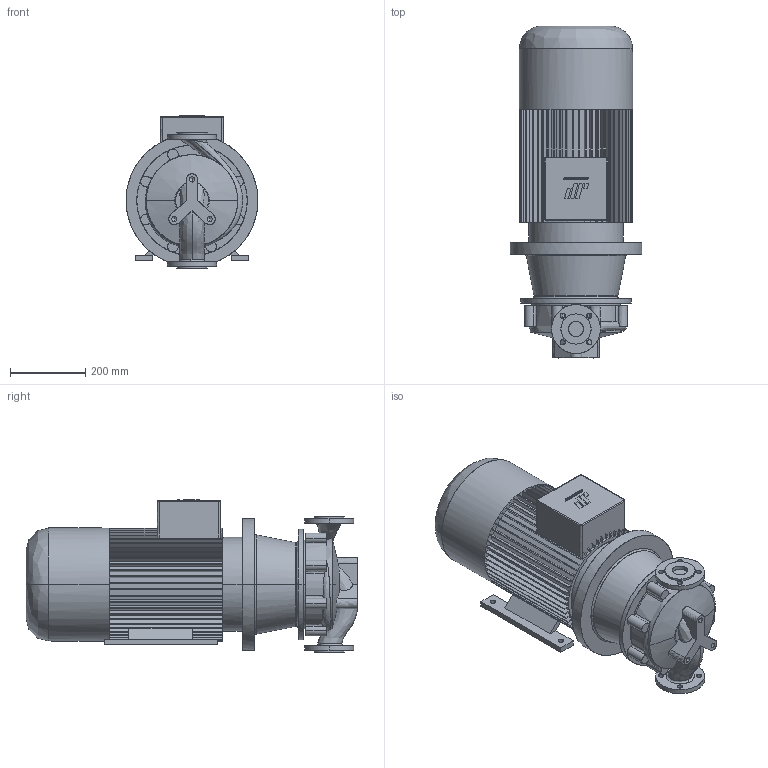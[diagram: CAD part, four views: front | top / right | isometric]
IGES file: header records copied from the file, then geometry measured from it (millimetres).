
Start section: CombiLine
Global section: file name: CLB_40-200_IEC160L.igs; native system:  By UGS Corp.; preprocessor: XPlus GENERIC/IGES 3.0; author: Stageplaats; organization: Johnson Pump Water B.V.; date: 20070712.153230; units: millimetre
Bounding box: 350 x 880.5 x 405 mm (x, y, z)
Surface area: 1698877.5 mm2 (no closed solid volume)
Topology: 0 solids, 0 shells, 580 faces, 3532 edges, 3526 vertices
Faces by surface type: bspline 580
